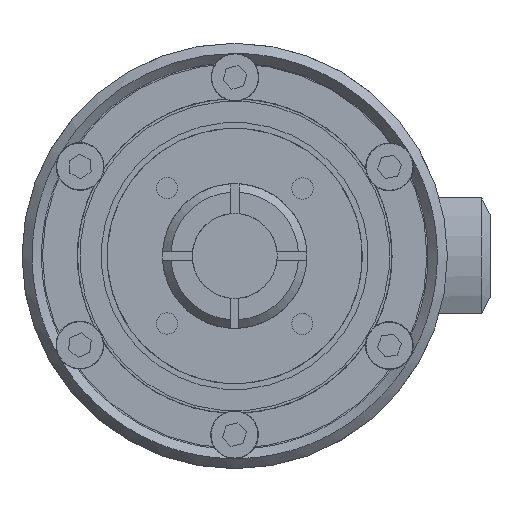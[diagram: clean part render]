
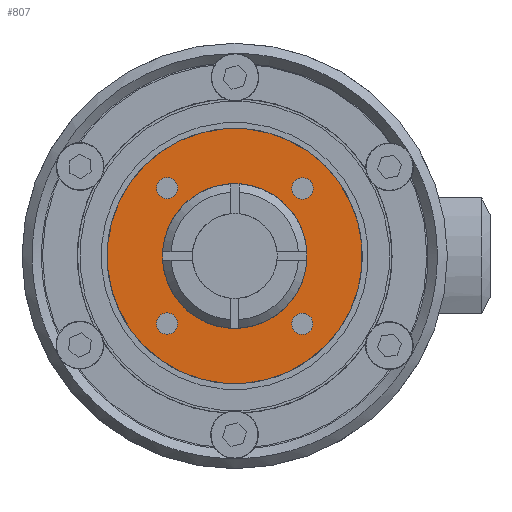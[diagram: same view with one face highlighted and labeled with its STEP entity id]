
A CAD part, left-side view. The second image highlights one B-rep face of the part: STEP entity #807.
In plain terms, the highlighted planar face has unit normal (-1, 0, 0) as drawn and (0, -1, 0) by its records, which use the part's own axes.
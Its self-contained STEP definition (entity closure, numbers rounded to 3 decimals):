
#807 = ADVANCED_FACE( '', ( #1577, #1578, #1579, #1580, #1581, #1582 ), #1583, .F. );
#1577 = FACE_OUTER_BOUND( '', #2500, .T. );
#1578 = FACE_BOUND( '', #2501, .T. );
#1579 = FACE_BOUND( '', #2502, .T. );
#1580 = FACE_BOUND( '', #2503, .T. );
#1581 = FACE_BOUND( '', #2504, .T. );
#1582 = FACE_BOUND( '', #2505, .T. );
#1583 = PLANE( '', #2506 );
#2500 = EDGE_LOOP( '', ( #4437 ) );
#2501 = EDGE_LOOP( '', ( #4438 ) );
#2502 = EDGE_LOOP( '', ( #4439 ) );
#2503 = EDGE_LOOP( '', ( #4440 ) );
#2504 = EDGE_LOOP( '', ( #4441 ) );
#2505 = EDGE_LOOP( '', ( #4442 ) );
#2506 = AXIS2_PLACEMENT_3D( '', #4443, #4444, #4445 );
#4437 = ORIENTED_EDGE( '', *, *, #5618, .T. );
#4438 = ORIENTED_EDGE( '', *, *, #5628, .F. );
#4439 = ORIENTED_EDGE( '', *, *, #5626, .F. );
#4440 = ORIENTED_EDGE( '', *, *, #5624, .F. );
#4441 = ORIENTED_EDGE( '', *, *, #5625, .F. );
#4442 = ORIENTED_EDGE( '', *, *, #5627, .F. );
#4443 = CARTESIAN_POINT( '', ( 0., 0., 15. ) );
#4444 = DIRECTION( '', ( 0., 1., 0. ) );
#4445 = DIRECTION( '', ( 1., 0., 0. ) );
#5618 = EDGE_CURVE( '', #6609, #6609, #6610, .T. );
#5624 = EDGE_CURVE( '', #6621, #6621, #6622, .T. );
#5625 = EDGE_CURVE( '', #6623, #6623, #6624, .T. );
#5626 = EDGE_CURVE( '', #6625, #6625, #6626, .T. );
#5627 = EDGE_CURVE( '', #6627, #6627, #6628, .T. );
#5628 = EDGE_CURVE( '', #6629, #6629, #6630, .T. );
#6609 = VERTEX_POINT( '', #8239 );
#6610 = CIRCLE( '', #8240, 15. );
#6621 = VERTEX_POINT( '', #8251 );
#6622 = CIRCLE( '', #8252, 1.25 );
#6623 = VERTEX_POINT( '', #8253 );
#6624 = CIRCLE( '', #8254, 1.25 );
#6625 = VERTEX_POINT( '', #8255 );
#6626 = CIRCLE( '', #8256, 1.25 );
#6627 = VERTEX_POINT( '', #8257 );
#6628 = CIRCLE( '', #8258, 8.5 );
#6629 = VERTEX_POINT( '', #8259 );
#6630 = CIRCLE( '', #8260, 1.25 );
#8239 = CARTESIAN_POINT( '', ( 0., 0., -15. ) );
#8240 = AXIS2_PLACEMENT_3D( '', #9647, #9648, #9649 );
#8251 = CARTESIAN_POINT( '', ( 11.25, 0., -1.25 ) );
#8252 = AXIS2_PLACEMENT_3D( '', #9665, #9666, #9667 );
#8253 = CARTESIAN_POINT( '', ( 1.25, 0., 11.25 ) );
#8254 = AXIS2_PLACEMENT_3D( '', #9668, #9669, #9670 );
#8255 = CARTESIAN_POINT( '', ( -1.25, 0., -11.25 ) );
#8256 = AXIS2_PLACEMENT_3D( '', #9671, #9672, #9673 );
#8257 = CARTESIAN_POINT( '', ( 0., 0., -8.5 ) );
#8258 = AXIS2_PLACEMENT_3D( '', #9674, #9675, #9676 );
#8259 = CARTESIAN_POINT( '', ( -11.25, 0., 1.25 ) );
#8260 = AXIS2_PLACEMENT_3D( '', #9677, #9678, #9679 );
#9647 = CARTESIAN_POINT( '', ( 0., 0., 0. ) );
#9648 = DIRECTION( '', ( 0., -1., 0. ) );
#9649 = DIRECTION( '', ( 0., 0., -1. ) );
#9665 = CARTESIAN_POINT( '', ( 11.25, 0., 0. ) );
#9666 = DIRECTION( '', ( 0., -1., 0. ) );
#9667 = DIRECTION( '', ( 0., 0., -1. ) );
#9668 = CARTESIAN_POINT( '', ( 0., 0., 11.25 ) );
#9669 = DIRECTION( '', ( 0., -1., 0. ) );
#9670 = DIRECTION( '', ( 1., 0., 0. ) );
#9671 = CARTESIAN_POINT( '', ( 0., 0., -11.25 ) );
#9672 = DIRECTION( '', ( 0., -1., 0. ) );
#9673 = DIRECTION( '', ( -1., 0., 0. ) );
#9674 = CARTESIAN_POINT( '', ( 0., 0., 0. ) );
#9675 = DIRECTION( '', ( 0., -1., 0. ) );
#9676 = DIRECTION( '', ( 0., 0., -1. ) );
#9677 = CARTESIAN_POINT( '', ( -11.25, 0., 0. ) );
#9678 = DIRECTION( '', ( 0., -1., 0. ) );
#9679 = DIRECTION( '', ( 0., 0., 1. ) );
